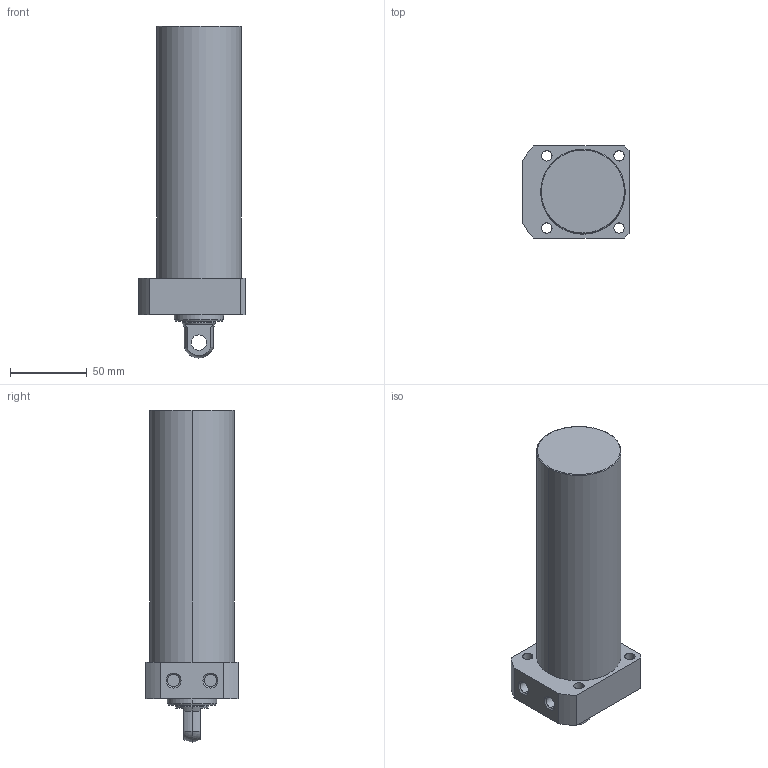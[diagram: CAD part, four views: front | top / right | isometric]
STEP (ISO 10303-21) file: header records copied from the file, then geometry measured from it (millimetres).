
FILE_DESCRIPTION (( 'STEP AP203' ), '1' );
FILE_NAME ('CLLR-055CP-135.STEP', '2019-12-17T12:41:14', ( '' ), ( '' ), 'SwSTEP 2.0', 'SolidWorks 2015', '' );
FILE_SCHEMA (( 'CONFIG_CONTROL_DESIGN' ));
Length unit declared in the file: millimetre
Products named in the file (1): CLLR-055CP-135
Bounding box: 69 x 60 x 216 mm (x, y, z)
Volume: 489159.9 mm3; surface area: 46555.2 mm2
Topology: 1 solids, 1 shells, 59 faces, 139 edges, 89 vertices
Faces by surface type: cylinder 29, plane 18, cone 8, torus 2, sphere 2
Entity records: 1822 total; most frequent: DIRECTION 331, CARTESIAN_POINT 300, ORIENTED_EDGE 278, EDGE_CURVE 139, AXIS2_PLACEMENT_3D 136, VERTEX_POINT 89, CIRCLE 76, EDGE_LOOP 76
